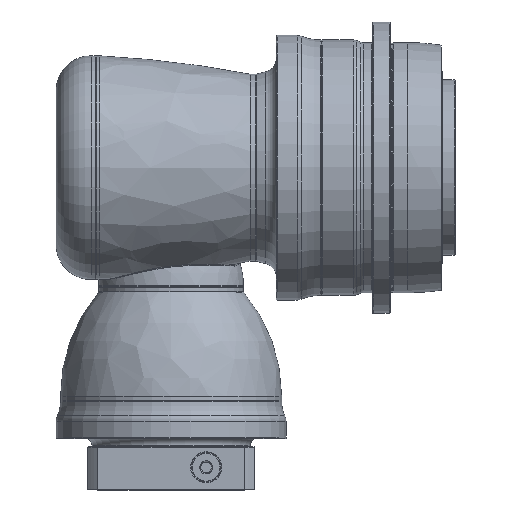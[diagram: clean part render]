
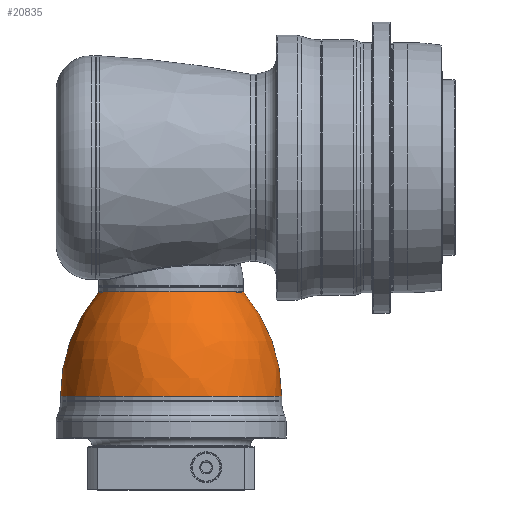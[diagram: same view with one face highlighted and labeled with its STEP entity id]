
A CAD part, top view. The second image highlights one B-rep face of the part: STEP entity #20835.
In plain terms, the highlighted free-form (B-spline) face has degree [3, 3] with [7, 4] control points.
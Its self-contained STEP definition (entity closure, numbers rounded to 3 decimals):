
#20620=CARTESIAN_POINT('',(-5.,0.,0.));
#20621=DIRECTION('',(1.,0.,0.));
#20622=DIRECTION('',(0.,1.,0.));
#20623=AXIS2_PLACEMENT_3D('',#20620,#20621,#20622);
#20625=CARTESIAN_POINT('',(-123.861,0.,0.));
#20626=DIRECTION('',(-1.,0.,0.));
#20627=DIRECTION('',(0.,-1.,0.));
#20628=AXIS2_PLACEMENT_3D('',#20625,#20626,#20627);
#20630=CARTESIAN_POINT('',(-5.,-58.52,0.));
#20631=DIRECTION('',(0.,0.,-1.));
#20632=DIRECTION('',(-0.644,0.765,0.));
#20633=AXIS2_PLACEMENT_3D('',#20630,#20631,#20632);
#20635=CARTESIAN_POINT('',(-5.,58.52,0.));
#20636=DIRECTION('',(0.,0.,1.));
#20637=DIRECTION('',(-0.644,-0.765,0.));
#20638=AXIS2_PLACEMENT_3D('',#20635,#20636,#20637);
#20701=CARTESIAN_POINT('',(-5.,126.,0.));
#20702=CARTESIAN_POINT('',(-5.,-126.,0.));
#20703=VERTEX_POINT('',#20701);
#20704=VERTEX_POINT('',#20702);
#20705=CARTESIAN_POINT('',(-123.861,82.618,0.));
#20706=CARTESIAN_POINT('',(-123.861,-82.618,
0.));
#20707=VERTEX_POINT('',#20705);
#20708=VERTEX_POINT('',#20706);
#20797=CARTESIAN_POINT('',(-2.417,-125.733,
-7.91));
#20798=CARTESIAN_POINT('',(-48.202,-126.373,
-7.951));
#20799=CARTESIAN_POINT('',(-91.217,-110.704,
-6.965));
#20800=CARTESIAN_POINT('',(-125.825,-80.78,
-5.082));
#20801=CARTESIAN_POINT('',(-2.417,-130.601,
69.466));
#20802=CARTESIAN_POINT('',(-48.202,-131.266,
69.819));
#20803=CARTESIAN_POINT('',(-91.217,-114.991,
61.162));
#20804=CARTESIAN_POINT('',(-125.825,-83.908,
44.63));
#20805=CARTESIAN_POINT('',(-2.417,-77.529,
125.982));
#20806=CARTESIAN_POINT('',(-48.202,-77.924,
126.623));
#20807=CARTESIAN_POINT('',(-91.217,-68.262,
110.923));
#20808=CARTESIAN_POINT('',(-125.825,-49.81,
80.94));
#20809=CARTESIAN_POINT('',(-2.417,0.,
125.982));
#20810=CARTESIAN_POINT('',(-48.202,0.,
126.623));
#20811=CARTESIAN_POINT('',(-91.217,0.,
110.923));
#20812=CARTESIAN_POINT('',(-125.825,0.,80.94));
#20813=CARTESIAN_POINT('',(-2.417,77.529,
125.982));
#20814=CARTESIAN_POINT('',(-48.202,77.924,
126.623));
#20815=CARTESIAN_POINT('',(-91.217,68.262,
110.923));
#20816=CARTESIAN_POINT('',(-125.825,49.81,
80.94));
#20817=CARTESIAN_POINT('',(-2.417,130.601,
69.466));
#20818=CARTESIAN_POINT('',(-48.202,131.266,
69.819));
#20819=CARTESIAN_POINT('',(-91.217,114.991,
61.162));
#20820=CARTESIAN_POINT('',(-125.825,83.908,
44.63));
#20821=CARTESIAN_POINT('',(-2.417,125.733,
-7.91));
#20822=CARTESIAN_POINT('',(-48.202,126.373,
-7.951));
#20823=CARTESIAN_POINT('',(-91.217,110.704,
-6.965));
#20824=CARTESIAN_POINT('',(-125.825,80.78,
-5.082));
#20825=(BOUNDED_SURFACE()B_SPLINE_SURFACE(3,3,((#20797,#20798,#20799,#20800),(
#20801,#20802,#20803,#20804),(#20805,#20806,#20807,#20808),(#20809,#20810,
#20811,#20812),(#20813,#20814,#20815,#20816),(#20817,#20818,#20819,#20820),(
#20821,#20822,#20823,#20824)),.UNSPECIFIED.,.F.,.F.,.F.)B_SPLINE_SURFACE_WITH_KNOTS((4,3,4),(4,4),(0.,1.,2.),(0.,1.),.UNSPECIFIED.)GEOMETRIC_REPRESENTATION_ITEM()RATIONAL_B_SPLINE_SURFACE(((1.227,1.174,
1.174,1.227),(0.969,0.927,
0.927,0.969),(0.969,0.927,
0.927,0.969),(1.227,1.174,
1.174,1.227),(0.969,0.927,
0.927,0.969),(0.969,0.927,
0.927,0.969),(1.227,1.174,
1.174,1.227)))REPRESENTATION_ITEM('')SURFACE());
#20827=ORIENTED_EDGE('',*,*,#20826,.T.);
#20829=ORIENTED_EDGE('',*,*,#20828,.T.);
#20830=ORIENTED_EDGE('',*,*,#20791,.T.);
#20832=ORIENTED_EDGE('',*,*,#20831,.F.);
#20833=EDGE_LOOP('',(#20827,#20829,#20830,#20832));
#20834=FACE_OUTER_BOUND('',#20833,.F.);
#20835=ADVANCED_FACE('',(#20834),#20825,.T.);
#20624=CIRCLE('',#20623,126.);
#20629=CIRCLE('',#20628,82.618);
#20634=CIRCLE('',#20633,184.52);
#20639=CIRCLE('',#20638,184.52);
#20791=EDGE_CURVE('',#20703,#20704,#20624,.T.);
#20826=EDGE_CURVE('',#20708,#20707,#20629,.T.);
#20828=EDGE_CURVE('',#20707,#20703,#20634,.T.);
#20831=EDGE_CURVE('',#20708,#20704,#20639,.T.);
